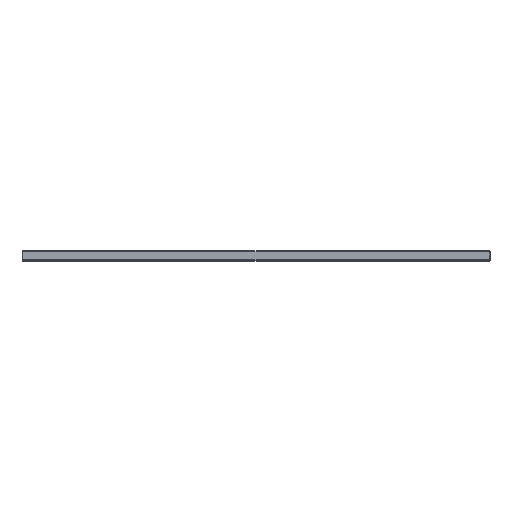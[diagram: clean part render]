
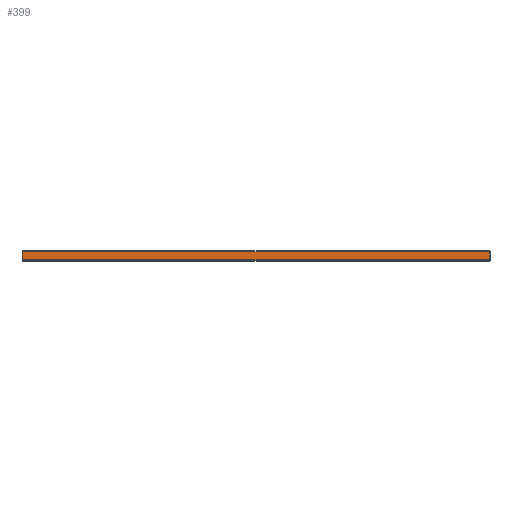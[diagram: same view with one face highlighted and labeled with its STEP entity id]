
A CAD part, top view. The second image highlights one B-rep face of the part: STEP entity #399.
In plain terms, the highlighted planar face has unit normal (0, 0, 1).
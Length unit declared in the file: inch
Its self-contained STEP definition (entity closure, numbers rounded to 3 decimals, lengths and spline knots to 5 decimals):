
#70 = LINE ( 'NONE', #1968, #1280 ) ;
#198 = EDGE_CURVE ( 'NONE', #1085, #1341, #70, .T. ) ;
#288 = EDGE_CURVE ( 'NONE', #1341, #1483, #1305, .T. ) ;
#399 = ADVANCED_FACE ( 'NONE', ( #1630 ), #1138, .F. ) ;
#589 = CARTESIAN_POINT ( 'NONE',  ( -11.8125, 0.05, 9.6875 ) ) ;
#751 = VECTOR ( 'NONE', #853, 39.37008 ) ;
#818 = DIRECTION ( 'NONE',  ( -1., 0., 0. ) ) ;
#853 = DIRECTION ( 'NONE',  ( -1., 0., 0. ) ) ;
#924 = DIRECTION ( 'NONE',  ( 1., 0., 0. ) ) ;
#934 = VECTOR ( 'NONE', #924, 39.37008 ) ;
#960 = ORIENTED_EDGE ( 'NONE', *, *, #1706, .T. ) ;
#975 = AXIS2_PLACEMENT_3D ( 'NONE', #1777, #1627, #818 ) ;
#1003 = CARTESIAN_POINT ( 'NONE',  ( -11.8125, 0.45, 9.6875 ) ) ;
#1017 = LINE ( 'NONE', #1917, #1823 ) ;
#1080 = CARTESIAN_POINT ( 'NONE',  ( -11.7625, 0.05, 9.6875 ) ) ;
#1085 = VERTEX_POINT ( 'NONE', #1378 ) ;
#1104 = CARTESIAN_POINT ( 'NONE',  ( 11.7625, 0.05, 9.6875 ) ) ;
#1138 = PLANE ( 'NONE',  #975 ) ;
#1181 = DIRECTION ( 'NONE',  ( 0., -1., 0. ) ) ;
#1261 = ORIENTED_EDGE ( 'NONE', *, *, #2031, .T. ) ;
#1280 = VECTOR ( 'NONE', #1181, 39.37008 ) ;
#1284 = ORIENTED_EDGE ( 'NONE', *, *, #198, .T. ) ;
#1304 = ORIENTED_EDGE ( 'NONE', *, *, #288, .T. ) ;
#1305 = LINE ( 'NONE', #589, #934 ) ;
#1308 = EDGE_LOOP ( 'NONE', ( #1304, #1261, #960, #1284 ) ) ;
#1341 = VERTEX_POINT ( 'NONE', #1080 ) ;
#1378 = CARTESIAN_POINT ( 'NONE',  ( -11.7625, 0.45, 9.6875 ) ) ;
#1483 = VERTEX_POINT ( 'NONE', #1104 ) ;
#1545 = CARTESIAN_POINT ( 'NONE',  ( 11.7625, 0.45, 9.6875 ) ) ;
#1627 = DIRECTION ( 'NONE',  ( 0., 0., -1. ) ) ;
#1630 = FACE_OUTER_BOUND ( 'NONE', #1308, .T. ) ;
#1706 = EDGE_CURVE ( 'NONE', #1837, #1085, #1721, .T. ) ;
#1721 = LINE ( 'NONE', #1003, #751 ) ;
#1773 = DIRECTION ( 'NONE',  ( 0., 1., 0. ) ) ;
#1777 = CARTESIAN_POINT ( 'NONE',  ( -11.8125, 0.5, 9.6875 ) ) ;
#1823 = VECTOR ( 'NONE', #1773, 39.37008 ) ;
#1837 = VERTEX_POINT ( 'NONE', #1545 ) ;
#1917 = CARTESIAN_POINT ( 'NONE',  ( 11.7625, 0.5, 9.6875 ) ) ;
#1968 = CARTESIAN_POINT ( 'NONE',  ( -11.7625, 0.5, 9.6875 ) ) ;
#2031 = EDGE_CURVE ( 'NONE', #1483, #1837, #1017, .T. ) ;
